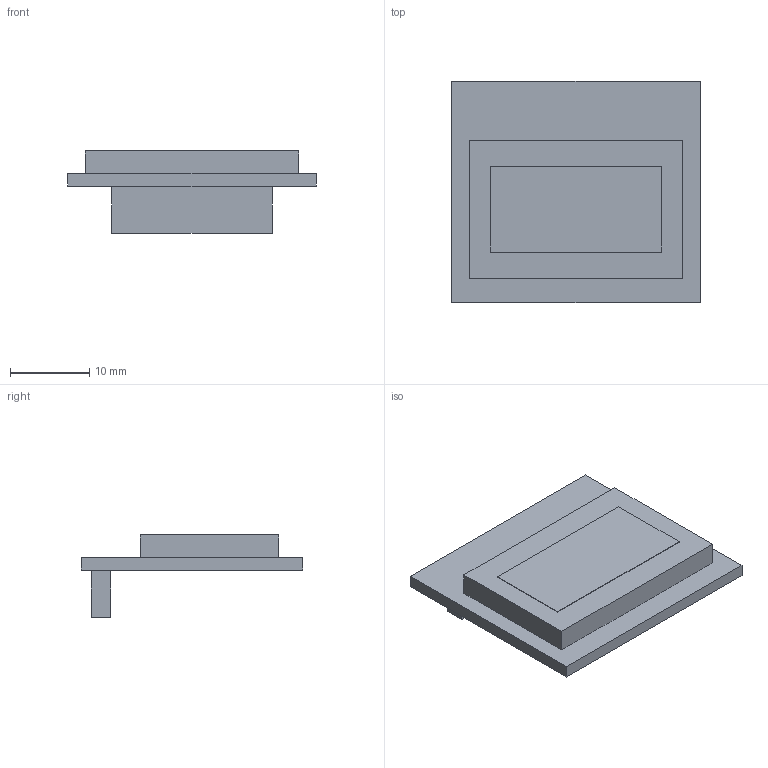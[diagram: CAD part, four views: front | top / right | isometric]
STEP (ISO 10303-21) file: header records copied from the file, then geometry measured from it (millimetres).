
FILE_DESCRIPTION(('Open CASCADE Model'),'2;1');
FILE_NAME('Open CASCADE Shape Model','2026-10-01T17:03:59',('Author'),( 'Open CASCADE'),'Open CASCADE STEP processor 7.9','Open CASCADE 7.9' ,'Unknown');
FILE_SCHEMA(('AUTOMOTIVE_DESIGN { 1 0 10303 214 1 1 1 1 }'));
Length unit declared in the file: millimetre
Products named in the file (5): Open CASCADE STEP translator 7.9 2; Open CASCADE STEP translator 7.9 2.1; Open CASCADE STEP translator 7.9 2.2; Open CASCADE STEP translator 7.9 2.3; Open CASCADE STEP translator 7.9 2.4
Assembly tree (4 placements, depth 2):
  Open CASCADE STEP translator 7.9 2
    Open CASCADE STEP translator 7.9 2.1
    Open CASCADE STEP translator 7.9 2.2
    Open CASCADE STEP translator 7.9 2.3
    Open CASCADE STEP translator 7.9 2.4
Bounding box: 31.4 x 28 x 10.5 mm (x, y, z)
Volume: 3107.7 mm3; surface area: 4004.5 mm2
Topology: 4 solids, 4 shells, 24 faces, 48 edges, 32 vertices
Faces by surface type: plane 24
Entity records: 1312 total; most frequent: CARTESIAN_POINT 205, DIRECTION 202, LINE 144, VECTOR 144, ORIENTED_EDGE 96, PCURVE 96, DEFINITIONAL_REPRESENTATION 96, EDGE_CURVE 48
